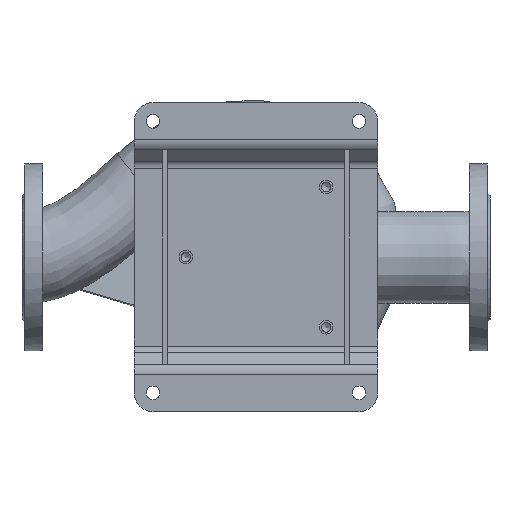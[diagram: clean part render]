
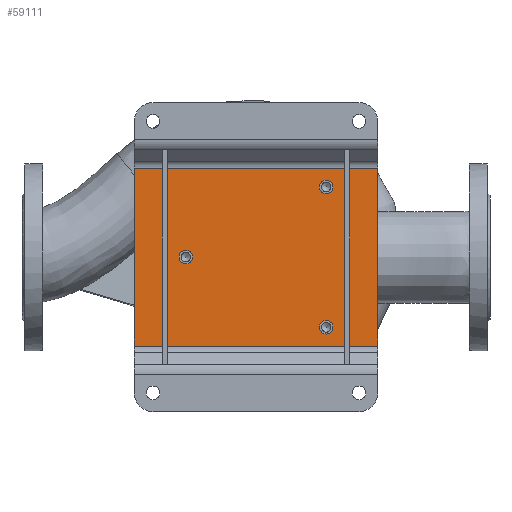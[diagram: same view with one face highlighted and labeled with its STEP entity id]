
A CAD part, top view. The second image highlights one B-rep face of the part: STEP entity #59111.
In plain terms, the highlighted planar face has unit normal (0, 0, 1) as drawn and (0, -1, 0) by its records, which use the part's own axes.
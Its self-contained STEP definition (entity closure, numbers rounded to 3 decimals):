
#1141 = CARTESIAN_POINT ( 'NONE',  ( 0., -5., -82.25 ) ) ;
#1921 = VECTOR ( 'NONE', #50640, 1000. ) ;
#2792 = VECTOR ( 'NONE', #32663, 1000. ) ;
#3173 = AXIS2_PLACEMENT_3D ( 'NONE', #34281, #44862, #59841 ) ;
#3230 = DIRECTION ( 'NONE',  ( 0., -1., 0. ) ) ;
#4414 = FACE_OUTER_BOUND ( 'NONE', #66454, .T. ) ;
#6212 = EDGE_CURVE ( 'NONE', #13928, #13928, #64601, .T. ) ;
#6494 = VERTEX_POINT ( 'NONE', #30676 ) ;
#6913 = EDGE_CURVE ( 'NONE', #45316, #45316, #20721, .T. ) ;
#8419 = EDGE_LOOP ( 'NONE', ( #31043 ) ) ;
#8497 = CARTESIAN_POINT ( 'NONE',  ( -75., -5., 75. ) ) ;
#8798 = CARTESIAN_POINT ( 'NONE',  ( 75., -5., 67.75 ) ) ;
#9511 = PLANE ( 'NONE',  #45638 ) ;
#10547 = ORIENTED_EDGE ( 'NONE', *, *, #60251, .F. ) ;
#11843 = LINE ( 'NONE', #17316, #2792 ) ;
#13928 = VERTEX_POINT ( 'NONE', #60288 ) ;
#17026 = CARTESIAN_POINT ( 'NONE',  ( -95., -5., 130. ) ) ;
#17316 = CARTESIAN_POINT ( 'NONE',  ( -95., -5., 130. ) ) ;
#18880 = EDGE_LOOP ( 'NONE', ( #26053 ) ) ;
#19795 = FACE_BOUND ( 'NONE', #8419, .T. ) ;
#20721 = CIRCLE ( 'NONE', #23942, 7.25 ) ;
#22939 = DIRECTION ( 'NONE',  ( 0., 0., -1. ) ) ;
#23942 = AXIS2_PLACEMENT_3D ( 'NONE', #24359, #3230, #45178 ) ;
#24158 = EDGE_CURVE ( 'NONE', #6494, #63085, #47029, .T. ) ;
#24359 = CARTESIAN_POINT ( 'NONE',  ( 75., -5., 75. ) ) ;
#26053 = ORIENTED_EDGE ( 'NONE', *, *, #6913, .F. ) ;
#26861 = VECTOR ( 'NONE', #22939, 1000. ) ;
#27193 = EDGE_CURVE ( 'NONE', #63085, #60206, #11843, .T. ) ;
#28058 = LINE ( 'NONE', #49189, #26861 ) ;
#29180 = LINE ( 'NONE', #49979, #1921 ) ;
#30676 = CARTESIAN_POINT ( 'NONE',  ( -95., -5., -130. ) ) ;
#31043 = ORIENTED_EDGE ( 'NONE', *, *, #6212, .F. ) ;
#31845 = ORIENTED_EDGE ( 'NONE', *, *, #54401, .F. ) ;
#32663 = DIRECTION ( 'NONE',  ( 1., 0., 0. ) ) ;
#32986 = CARTESIAN_POINT ( 'NONE',  ( 95., -5., -130. ) ) ;
#33339 = VERTEX_POINT ( 'NONE', #32986 ) ;
#34281 = CARTESIAN_POINT ( 'NONE',  ( 0., -5., -75. ) ) ;
#34398 = EDGE_LOOP ( 'NONE', ( #10547 ) ) ;
#34784 = DIRECTION ( 'NONE',  ( 0., 0., -1. ) ) ;
#35317 = EDGE_CURVE ( 'NONE', #60206, #33339, #28058, .T. ) ;
#36507 = DIRECTION ( 'NONE',  ( 0., 0., -1. ) ) ;
#37060 = ORIENTED_EDGE ( 'NONE', *, *, #35317, .F. ) ;
#38906 = DIRECTION ( 'NONE',  ( 0., -1., 0. ) ) ;
#41622 = FACE_BOUND ( 'NONE', #18880, .T. ) ;
#42892 = AXIS2_PLACEMENT_3D ( 'NONE', #8497, #38906, #34784 ) ;
#43302 = ORIENTED_EDGE ( 'NONE', *, *, #27193, .F. ) ;
#44862 = DIRECTION ( 'NONE',  ( 0., -1., 0. ) ) ;
#45178 = DIRECTION ( 'NONE',  ( 0., 0., -1. ) ) ;
#45316 = VERTEX_POINT ( 'NONE', #8798 ) ;
#45638 = AXIS2_PLACEMENT_3D ( 'NONE', #62724, #56939, #36507 ) ;
#47029 = LINE ( 'NONE', #61668, #52751 ) ;
#47030 = ORIENTED_EDGE ( 'NONE', *, *, #24158, .F. ) ;
#47865 = VERTEX_POINT ( 'NONE', #1141 ) ;
#49189 = CARTESIAN_POINT ( 'NONE',  ( 95., -5., 130. ) ) ;
#49633 = CARTESIAN_POINT ( 'NONE',  ( 95., -5., 130. ) ) ;
#49979 = CARTESIAN_POINT ( 'NONE',  ( -95., -5., -130. ) ) ;
#50640 = DIRECTION ( 'NONE',  ( -1., 0., 0. ) ) ;
#52751 = VECTOR ( 'NONE', #67485, 1000. ) ;
#54401 = EDGE_CURVE ( 'NONE', #33339, #6494, #29180, .T. ) ;
#56939 = DIRECTION ( 'NONE',  ( 0., -1., 0. ) ) ;
#59111 = ADVANCED_FACE ( 'NONE', ( #41622, #66491, #19795, #4414 ), #9511, .T. ) ;
#59841 = DIRECTION ( 'NONE',  ( 0., 0., -1. ) ) ;
#60206 = VERTEX_POINT ( 'NONE', #49633 ) ;
#60251 = EDGE_CURVE ( 'NONE', #47865, #47865, #61988, .T. ) ;
#60288 = CARTESIAN_POINT ( 'NONE',  ( -75., -5., 67.75 ) ) ;
#61668 = CARTESIAN_POINT ( 'NONE',  ( -95., -5., 130. ) ) ;
#61988 = CIRCLE ( 'NONE', #3173, 7.25 ) ;
#62724 = CARTESIAN_POINT ( 'NONE',  ( 0., -5., 0. ) ) ;
#63085 = VERTEX_POINT ( 'NONE', #17026 ) ;
#64601 = CIRCLE ( 'NONE', #42892, 7.25 ) ;
#66454 = EDGE_LOOP ( 'NONE', ( #37060, #43302, #47030, #31845 ) ) ;
#66491 = FACE_BOUND ( 'NONE', #34398, .T. ) ;
#67485 = DIRECTION ( 'NONE',  ( 0., 0., 1. ) ) ;
